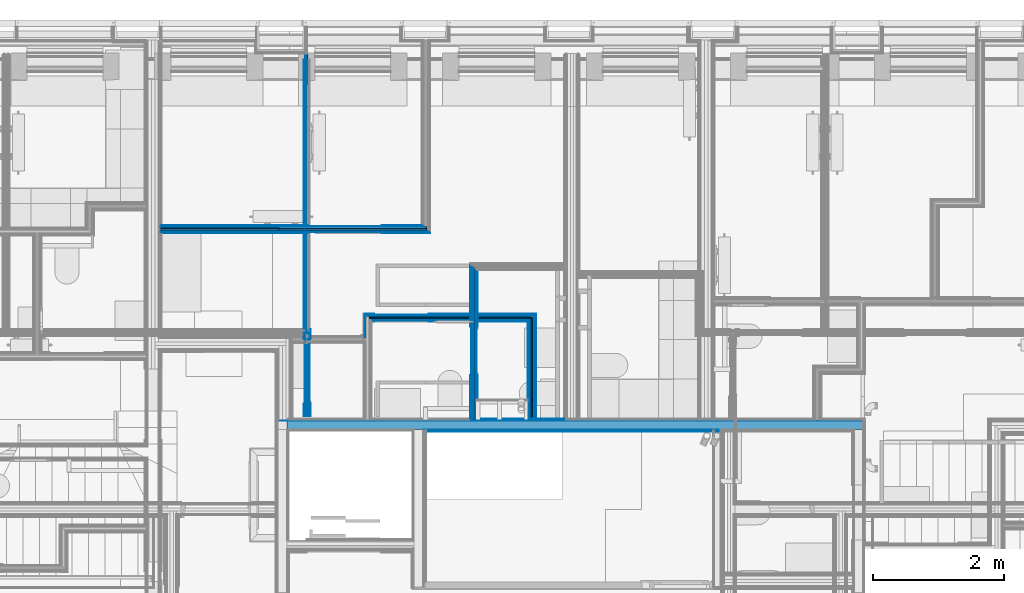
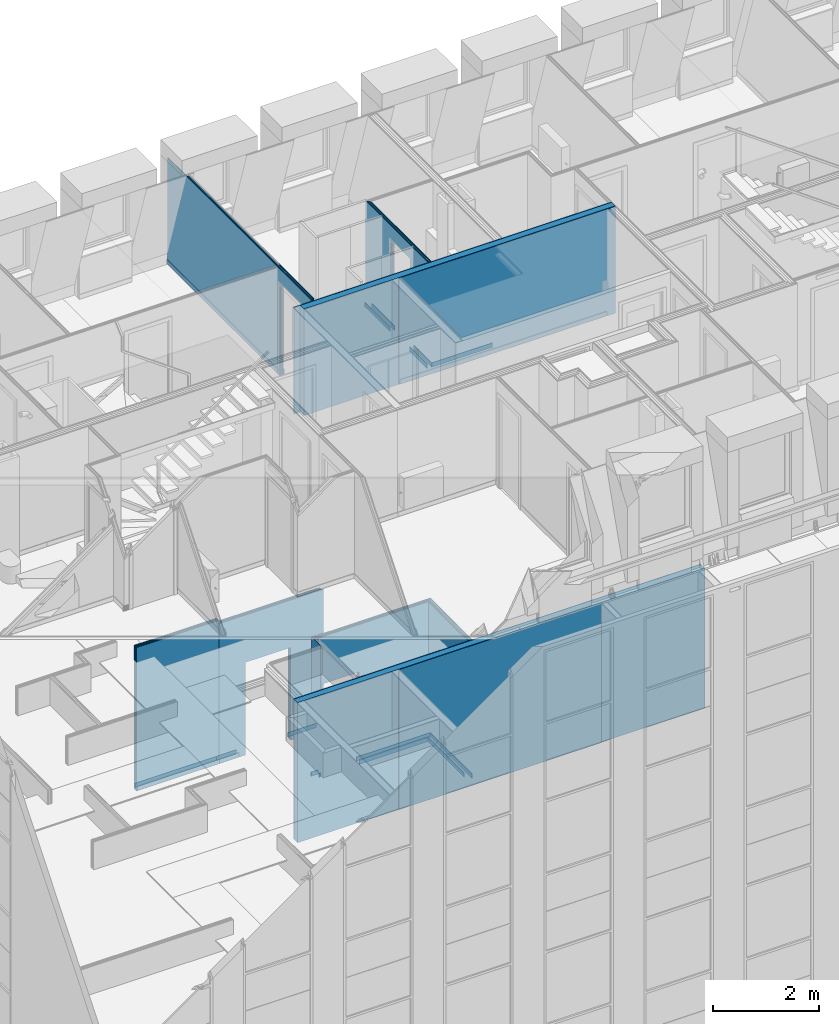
# One storey, part 31 of 169: 53 building element parts, 4 openings, 9 elements without a shape of their own.
"""IFC2X3 building model written with IfcOpenShell, lengths in metres."""

from ifc_helpers import new_model, entity, si_unit, converted_unit, derived_unit, money_unit, direction, frame, frame_2d, origin_with_axes, place, context, subcontext, project, spatial, polyline, rectangle, outline, extrude, clip, halfspace, material, type_object, element, aggregate, save


model = new_model("IFC2X3")

# Units and contexts
model_context = context("Model", 3, precision=1e-05, world=origin_with_axes(), true_north=direction((0.0, 1.0)))
body_context = subcontext(model_context, "Body", "Model", "MODEL_VIEW", scale=1.0)
ifc_project = project(units=[si_unit("LENGTHUNIT", "METRE"), si_unit("AREAUNIT", "SQUARE_METRE"), si_unit("VOLUMEUNIT", "CUBIC_METRE"), si_unit("ABSORBEDDOSEUNIT", "GRAY"), si_unit("AMOUNTOFSUBSTANCEUNIT", "MOLE"), si_unit("DOSEEQUIVALENTUNIT", "SIEVERT"), si_unit("ELECTRICCAPACITANCEUNIT", "FARAD"), si_unit("ELECTRICCHARGEUNIT", "COULOMB"), si_unit("ELECTRICCONDUCTANCEUNIT", "SIEMENS"), si_unit("ELECTRICCURRENTUNIT", "AMPERE"), si_unit("ELECTRICRESISTANCEUNIT", "OHM"), si_unit("ELECTRICVOLTAGEUNIT", "VOLT"), si_unit("ENERGYUNIT", "JOULE"), si_unit("FORCEUNIT", "NEWTON"), si_unit("FREQUENCYUNIT", "HERTZ"), si_unit("ILLUMINANCEUNIT", "LUX"), si_unit("INDUCTANCEUNIT", "HENRY"), si_unit("LUMINOUSFLUXUNIT", "LUMEN"), si_unit("LUMINOUSINTENSITYUNIT", "CANDELA"), si_unit("MAGNETICFLUXDENSITYUNIT", "TESLA"), si_unit("MAGNETICFLUXUNIT", "WEBER"), si_unit("MASSUNIT", "GRAM"), converted_unit("PLANEANGLEUNIT", "degree", entity("IfcReal", 0.0174532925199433), si_unit("PLANEANGLEUNIT", "RADIAN"), dimensions=[0, 0, 0, 0, 0, 0, 0]), si_unit("POWERUNIT", "WATT"), si_unit("PRESSUREUNIT", "PASCAL"), si_unit("RADIOACTIVITYUNIT", "BECQUEREL"), si_unit("SOLIDANGLEUNIT", "STERADIAN"), si_unit("THERMODYNAMICTEMPERATUREUNIT", "KELVIN"), si_unit("TIMEUNIT", "SECOND"), derived_unit("ACCELERATIONUNIT", [(si_unit("LENGTHUNIT", "METRE"), 1), (si_unit("TIMEUNIT", "SECOND"), -2)]), derived_unit("ANGULARVELOCITYUNIT", [(converted_unit("PLANEANGLEUNIT", "degree", entity("IfcReal", 0.0174532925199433), si_unit("PLANEANGLEUNIT", "RADIAN"), dimensions=[0, 0, 0, 0, 0, 0, 0]), 1), (si_unit("TIMEUNIT", "SECOND"), -1)]), derived_unit("CURVATUREUNIT", [(converted_unit("PLANEANGLEUNIT", "degree", entity("IfcReal", 0.0174532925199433), si_unit("PLANEANGLEUNIT", "RADIAN"), dimensions=[0, 0, 0, 0, 0, 0, 0]), 1), (si_unit("LENGTHUNIT", "METRE"), -1)]), derived_unit("DYNAMICVISCOSITYUNIT", [(si_unit("PRESSUREUNIT", "PASCAL"), 1), (si_unit("TIMEUNIT", "SECOND"), 1)]), derived_unit("HEATFLUXDENSITYUNIT", [(si_unit("POWERUNIT", "WATT"), 1), (si_unit("LENGTHUNIT", "METRE"), -2)]), derived_unit("HEATINGVALUEUNIT", [(si_unit("ENERGYUNIT", "JOULE"), 1), (si_unit("MASSUNIT", "GRAM"), -1)]), derived_unit("INTEGERCOUNTRATEUNIT", [(si_unit("TIMEUNIT", "SECOND"), -1)]), derived_unit("IONCONCENTRATIONUNIT", [(si_unit("MASSUNIT", "GRAM"), 1), (si_unit("VOLUMEUNIT", "CUBIC_METRE"), -1)]), derived_unit("ISOTHERMALMOISTURECAPACITYUNIT", [(si_unit("VOLUMEUNIT", "CUBIC_METRE"), 1), (si_unit("MASSUNIT", "GRAM"), -1)]), derived_unit("KINEMATICVISCOSITYUNIT", [(si_unit("AREAUNIT", "SQUARE_METRE"), 1), (si_unit("TIMEUNIT", "SECOND"), -1)]), derived_unit("LINEARFORCEUNIT", [(si_unit("FORCEUNIT", "NEWTON"), 1), (si_unit("LENGTHUNIT", "METRE"), -1)]), derived_unit("LINEARMOMENTUNIT", [(si_unit("FORCEUNIT", "NEWTON"), 1), (si_unit("LENGTHUNIT", "METRE"), -1)]), derived_unit("LINEARSTIFFNESSUNIT", [(si_unit("FORCEUNIT", "NEWTON"), 1), (si_unit("LENGTHUNIT", "METRE"), -1)]), derived_unit("LINEARVELOCITYUNIT", [(si_unit("LENGTHUNIT", "METRE"), 1), (si_unit("TIMEUNIT", "SECOND"), -1)]), derived_unit("LUMINOUSINTENSITYDISTRIBUTIONUNIT", [(si_unit("LUMINOUSINTENSITYUNIT", "CANDELA"), 1), (si_unit("LUMINOUSFLUXUNIT", "LUMEN"), -1)]), derived_unit("MASSDENSITYUNIT", [(si_unit("MASSUNIT", "GRAM"), 1), (si_unit("VOLUMEUNIT", "CUBIC_METRE"), -1)]), derived_unit("MASSFLOWRATEUNIT", [(si_unit("MASSUNIT", "GRAM"), 1), (si_unit("TIMEUNIT", "SECOND"), -1)]), derived_unit("MASSPERLENGTHUNIT", [(si_unit("MASSUNIT", "GRAM"), 1), (si_unit("LENGTHUNIT", "METRE"), -1)]), derived_unit("MODULUSOFELASTICITYUNIT", [(si_unit("FORCEUNIT", "NEWTON"), 1), (si_unit("AREAUNIT", "SQUARE_METRE"), -1)]), derived_unit("MODULUSOFLINEARSUBGRADEREACTIONUNIT", [(si_unit("FORCEUNIT", "NEWTON"), 1), (si_unit("LENGTHUNIT", "METRE"), -2)]), derived_unit("MODULUSOFROTATIONALSUBGRADEREACTIONUNIT", [(si_unit("FORCEUNIT", "NEWTON"), 1), (si_unit("LENGTHUNIT", "METRE"), 1)]), derived_unit("MODULUSOFSUBGRADEREACTIONUNIT", [(si_unit("FORCEUNIT", "NEWTON"), 1), (si_unit("VOLUMEUNIT", "CUBIC_METRE"), -1)]), derived_unit("MOISTUREDIFFUSIVITYUNIT", [(si_unit("VOLUMEUNIT", "CUBIC_METRE"), 1), (si_unit("TIMEUNIT", "SECOND"), -1)]), derived_unit("MOLECULARWEIGHTUNIT", [(si_unit("MASSUNIT", "GRAM"), 1), (si_unit("AMOUNTOFSUBSTANCEUNIT", "MOLE"), -1)]), derived_unit("PLANARFORCEUNIT", [(si_unit("FORCEUNIT", "NEWTON"), 1), (si_unit("LENGTHUNIT", "METRE"), -2)]), derived_unit("ROTATIONALFREQUENCYUNIT", [(si_unit("TIMEUNIT", "SECOND"), -1)]), derived_unit("ROTATIONALMASSUNIT", [(si_unit("MASSUNIT", "GRAM"), 1), (si_unit("LENGTHUNIT", "METRE"), 2)]), derived_unit("ROTATIONALSTIFFNESSUNIT", [(si_unit("FORCEUNIT", "NEWTON"), 1), (si_unit("LENGTHUNIT", "METRE"), 1), (converted_unit("PLANEANGLEUNIT", "degree", entity("IfcReal", 0.0174532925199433), si_unit("PLANEANGLEUNIT", "RADIAN"), dimensions=[0, 0, 0, 0, 0, 0, 0]), -1)]), derived_unit("SECTIONAREAINTEGRALUNIT", [(si_unit("LENGTHUNIT", "METRE"), 5)]), derived_unit("SECTIONMODULUSUNIT", [(si_unit("LENGTHUNIT", "METRE"), 3)]), derived_unit("SHEARMODULUSUNIT", [(si_unit("FORCEUNIT", "NEWTON"), 1), (si_unit("AREAUNIT", "SQUARE_METRE"), -1)]), derived_unit("SOUNDPOWERUNIT", [(si_unit("ENERGYUNIT", "JOULE"), 1), (si_unit("TIMEUNIT", "SECOND"), -1)]), derived_unit("SPECIFICHEATCAPACITYUNIT", [(si_unit("FORCEUNIT", "NEWTON"), 1), (si_unit("MASSUNIT", "GRAM"), -1), (si_unit("THERMODYNAMICTEMPERATUREUNIT", "KELVIN"), -1)]), derived_unit("TEMPERATUREGRADIENTUNIT", [(si_unit("THERMODYNAMICTEMPERATUREUNIT", "KELVIN"), 1), (si_unit("LENGTHUNIT", "METRE"), -1)]), derived_unit("THERMALADMITTANCEUNIT", [(si_unit("POWERUNIT", "WATT"), 1), (si_unit("AREAUNIT", "SQUARE_METRE"), -1), (si_unit("THERMODYNAMICTEMPERATUREUNIT", "KELVIN"), -1)]), derived_unit("THERMALCONDUCTANCEUNIT", [(si_unit("POWERUNIT", "WATT"), 1), (si_unit("LENGTHUNIT", "METRE"), -1), (si_unit("THERMODYNAMICTEMPERATUREUNIT", "KELVIN"), -1)]), derived_unit("THERMALEXPANSIONCOEFFICIENTUNIT", [(si_unit("THERMODYNAMICTEMPERATUREUNIT", "KELVIN"), -1)]), derived_unit("THERMALRESISTANCEUNIT", [(si_unit("AREAUNIT", "SQUARE_METRE"), 1), (si_unit("POWERUNIT", "WATT"), -1)]), derived_unit("THERMALTRANSMITTANCEUNIT", [(si_unit("POWERUNIT", "WATT"), 1), (si_unit("AREAUNIT", "SQUARE_METRE"), -1), (si_unit("THERMODYNAMICTEMPERATUREUNIT", "KELVIN"), -1)]), derived_unit("TORQUEUNIT", [(si_unit("FORCEUNIT", "NEWTON"), 1), (si_unit("LENGTHUNIT", "METRE"), 1)]), derived_unit("VAPORPERMEABILITYUNIT", [(si_unit("MASSUNIT", "GRAM"), 1), (si_unit("TIMEUNIT", "SECOND"), -1)]), derived_unit("VOLUMETRICFLOWRATEUNIT", [(si_unit("VOLUMEUNIT", "CUBIC_METRE"), 1), (si_unit("TIMEUNIT", "SECOND"), -1)]), derived_unit("WARPINGCONSTANTUNIT", [(si_unit("LENGTHUNIT", "METRE"), 6)]), derived_unit("WARPINGMOMENTUNIT", [(si_unit("FORCEUNIT", "NEWTON"), 1), (si_unit("LENGTHUNIT", "METRE"), 2)]), money_unit("GBP")], contexts=[model_context])

# Site, building, storey
site_placement = place(None, origin_with_axes())
site = spatial("IfcSite", under=ifc_project, at=site_placement, Name="Site", CompositionType="ELEMENT")
building_placement = place(site_placement, origin_with_axes())
building = spatial("IfcBuilding", under=site, at=building_placement, Name="Building01", CompositionType="ELEMENT")
storey_placement = place(building_placement, frame((0.0, 0.0, 5.15), z_axis=(0.0, 0.0, 1.0), x_axis=(1.0, 0.0, 0.0)))
storey = spatial("IfcBuildingStorey", under=building, at=storey_placement, Name="1F", CompositionType="ELEMENT", Elevation=5.15)

# Wall, opening, building element parts
wall_type_1 = type_object("IfcWallType", Name="SHE_A-Walls_Type05a_Partition_95mm_tall", PredefinedType="NOTDEFINED")
wall_1_placement = place(storey_placement, frame((10.453871, 10.355, 0.0), z_axis=(0.0, 0.0, 1.0), x_axis=(1.0, 0.0, 0.0)))
wall_1 = element("IfcWall", 1, at=wall_1_placement, inside=storey, type_object=wall_type_1, Name="5A", ObjectType="SHE_A-Walls_Type05a_Partition_95mm_tall")
opening_1_placement = place(wall_1_placement, frame((0.086065, -0.05, 0.0), z_axis=(0.0, 0.0, 1.0), x_axis=(1.0, 0.0, 0.0)))
element("IfcOpeningElement", 2, at=opening_1_placement, cuts=wall_1, Name="Opening", ObjectType="Opening", context=body_context, shape_type="SweptSolid", body=[
    extrude(rectangle(XDim=0.834, YDim=2.142, at=frame_2d((-0.417, 1.071), x_axis=(1.0, 0.0))), frame((0.0, 0.0, 0.0), z_axis=(0.0, 1.0, 0.0), x_axis=(-1.0, 0.0, 0.0)), (0.0, 0.0, 1.0), 0.125),
])
ifc_material_1 = material(Name="A_BSUK_Walls_Timber")
placement_1 = place(wall_1_placement, origin_with_axes())
building_element_part_1 = element("IfcBuildingElementPart", 3, at=placement_1, material=ifc_material_1, Name="1", context=body_context, shape_type="SweptSolid", body=[
    extrude(outline(polyline([(2.439714, -0.035), (0.035, -0.035), (0.05, -0.05), (2.424714, -0.05), (2.439714, -0.035)])), frame((0.0, 0.0, 0.015), z_axis=(0.0, 0.0, 1.0), x_axis=(1.0, 0.0, 0.0)), (0.0, 0.0, 1.0), 0.1),
])
ifc_material_2 = material(Name="A_BSUK_WallInternal_Finishes_Plasterboard")
building_element_part_2 = element("IfcBuildingElementPart", 4, at=placement_1, material=ifc_material_2, Name="2", context=body_context, shape_type="SweptSolid", body=[
    extrude(outline(polyline([(2.451714, -0.023), (0.023, -0.023), (0.035, -0.035), (2.439714, -0.035), (2.451714, -0.023)])), origin_with_axes(), (0.0, 0.0, 1.0), 3.24),
])
ifc_material_3 = material(Name="Air Cavity")
building_element_part_3 = element("IfcBuildingElementPart", 5, at=placement_1, material=ifc_material_3, Name="3", context=body_context, shape_type="SweptSolid", body=[
    extrude(outline(polyline([(2.474714, 0.0), (0.0, 0.0), (0.023, -0.023), (2.451714, -0.023), (2.474714, 0.0)])), origin_with_axes(), (0.0, 0.0, 1.0), 3.24),
])
ifc_material_4 = material(Name="A_BSUK_Insulation")
building_element_part_4 = element("IfcBuildingElementPart", 6, at=placement_1, material=ifc_material_4, Name="4", context=body_context, shape_type="SweptSolid", body=[
    extrude(rectangle(XDim=2.474714, YDim=0.025, at=frame_2d((1.237357, 0.0125), x_axis=(-1.0, 0.0))), origin_with_axes(), (0.0, 0.0, 1.0), 3.24),
])
building_element_part_5 = element("IfcBuildingElementPart", 7, at=placement_1, material=ifc_material_3, Name="5", context=body_context, shape_type="SweptSolid", body=[
    extrude(rectangle(XDim=2.474714, YDim=0.023, at=frame_2d((1.237357, 0.0365), x_axis=(-1.0, 0.0))), origin_with_axes(), (0.0, 0.0, 1.0), 3.24),
])
building_element_part_6 = element("IfcBuildingElementPart", 8, at=placement_1, material=ifc_material_2, Name="6", context=body_context, shape_type="SweptSolid", body=[
    extrude(outline(polyline([(2.534714, 0.06), (-0.06, 0.06), (-0.048, 0.048), (2.522714, 0.048), (2.534714, 0.06)])), origin_with_axes(), (0.0, 0.0, 1.0), 3.24),
])
building_element_part_7 = element("IfcBuildingElementPart", 9, at=placement_1, material=ifc_material_1, Name="7", context=body_context, shape_type="SweptSolid", body=[
    extrude(outline(polyline([(2.549714, 0.075), (-0.075, 0.075), (-0.06, 0.06), (2.534714, 0.06), (2.549714, 0.075)])), frame((0.0, 0.0, 0.015), z_axis=(0.0, 0.0, 1.0), x_axis=(1.0, 0.0, 0.0)), (0.0, 0.0, 1.0), 0.1),
])
aggregate(wall_1, [building_element_part_1, building_element_part_2, building_element_part_3, building_element_part_4, building_element_part_5, building_element_part_6, building_element_part_7])

# Wall, building element parts
wall_2_placement = place(storey_placement, frame((12.928585, 10.38, 0.0), z_axis=(0.0, 0.0, 1.0), x_axis=(0.0, -1.0, 0.0)))
wall_2 = element("IfcWall", 10, at=wall_2_placement, inside=storey, type_object=wall_type_1, Name="5A", ObjectType="SHE_A-Walls_Type05a_Partition_95mm_tall")
placement_2 = place(wall_2_placement, origin_with_axes())
building_element_part_8 = element("IfcBuildingElementPart", 11, at=placement_2, material=ifc_material_1, Name="1", context=body_context, shape_type="SweptSolid", body=[
    extrude(outline(polyline([(1.426872, -0.035), (0.06, -0.035), (0.075, -0.05), (1.426872, -0.05), (1.426872, -0.035)])), frame((0.0, 0.0, 0.015), z_axis=(0.0, 0.0, 1.0), x_axis=(1.0, 0.0, 0.0)), (0.0, 0.0, 1.0), 0.1),
])
building_element_part_9 = element("IfcBuildingElementPart", 12, at=placement_2, material=ifc_material_2, Name="2", context=body_context, shape_type="SweptSolid", body=[
    extrude(outline(polyline([(1.56, -0.023), (0.048, -0.023), (0.06, -0.035), (1.56, -0.035), (1.56, -0.023)])), origin_with_axes(), (0.0, 0.0, 1.0), 3.24),
])
building_element_part_10 = element("IfcBuildingElementPart", 13, at=placement_2, material=ifc_material_3, Name="3", context=body_context, shape_type="SweptSolid", body=[
    extrude(outline(polyline([(1.56, 0.0), (0.025, 0.0), (0.048, -0.023), (1.56, -0.023), (1.56, 0.0)])), origin_with_axes(), (0.0, 0.0, 1.0), 3.24),
])
building_element_part_11 = element("IfcBuildingElementPart", 14, at=placement_2, material=ifc_material_4, Name="4", context=body_context, shape_type="SweptSolid", body=[
    extrude(rectangle(XDim=1.56, YDim=0.025, at=frame_2d((0.78, 0.0125), x_axis=(-1.0, 0.0))), origin_with_axes(), (0.0, 0.0, 1.0), 3.24),
])
building_element_part_12 = element("IfcBuildingElementPart", 15, at=placement_2, material=ifc_material_3, Name="5", context=body_context, shape_type="SweptSolid", body=[
    extrude(rectangle(XDim=1.56, YDim=0.023, at=frame_2d((0.78, 0.0365), x_axis=(-1.0, 0.0))), origin_with_axes(), (0.0, 0.0, 1.0), 3.24),
])
building_element_part_13 = element("IfcBuildingElementPart", 16, at=placement_2, material=ifc_material_2, Name="6", context=body_context, shape_type="SweptSolid", body=[
    extrude(outline(polyline([(1.56, 0.06), (-0.035, 0.06), (-0.023, 0.048), (1.56, 0.048), (1.56, 0.06)])), origin_with_axes(), (0.0, 0.0, 1.0), 3.24),
])
building_element_part_14 = element("IfcBuildingElementPart", 17, at=placement_2, material=ifc_material_1, Name="7", context=body_context, shape_type="SweptSolid", body=[
    extrude(outline(polyline([(1.545, 0.075), (-0.05, 0.075), (-0.035, 0.06), (1.545, 0.06), (1.545, 0.075)])), frame((0.0, 0.0, 0.015), z_axis=(0.0, 0.0, 1.0), x_axis=(1.0, 0.0, 0.0)), (0.0, 0.0, 1.0), 0.1),
])
aggregate(wall_2, [building_element_part_8, building_element_part_9, building_element_part_10, building_element_part_11, building_element_part_12, building_element_part_13, building_element_part_14])

wall_3_placement = place(storey_placement, frame((9.09, 11.703124, 0.0), z_axis=(0.0, 0.0, 1.0), x_axis=(-1.0, 0.0, 0.0)))
wall_3 = element("IfcWall", 18, at=wall_3_placement, inside=storey, type_object=wall_type_1, Name="5A", ObjectType="SHE_A-Walls_Type05a_Partition_95mm_tall")
placement_3 = place(wall_3_placement, origin_with_axes())
building_element_part_15 = element("IfcBuildingElementPart", 19, at=placement_3, material=ifc_material_1, Name="1", context=body_context, shape_type="SweptSolid", body=[
    extrude(rectangle(XDim=1.785331, YDim=0.015, at=frame_2d((0.892666, -0.0675), x_axis=(-1.0, 0.0))), frame((0.0, 0.0, 0.015), z_axis=(0.0, 0.0, 1.0), x_axis=(1.0, 0.0, 0.0)), (0.0, 0.0, 1.0), 0.1),
])
building_element_part_16 = element("IfcBuildingElementPart", 20, at=placement_3, material=ifc_material_2, Name="2", context=body_context, shape_type="SweptSolid", body=[
    extrude(rectangle(XDim=1.800331, YDim=0.012, at=frame_2d((0.900166, -0.054), x_axis=(1.0, 0.0))), origin_with_axes(), (0.0, 0.0, 1.0), 3.32),
])
building_element_part_17 = element("IfcBuildingElementPart", 21, at=placement_3, material=ifc_material_3, Name="3", context=body_context, shape_type="SweptSolid", body=[
    extrude(rectangle(XDim=1.800331, YDim=0.023, at=frame_2d((0.900166, -0.0365), x_axis=(1.0, 0.0))), origin_with_axes(), (0.0, 0.0, 1.0), 3.32),
])
building_element_part_18 = element("IfcBuildingElementPart", 22, at=placement_3, material=ifc_material_4, Name="4", context=body_context, shape_type="SweptSolid", body=[
    extrude(rectangle(XDim=1.800331, YDim=0.025, at=frame_2d((0.900166, -0.0125), x_axis=(1.0, 0.0))), origin_with_axes(), (0.0, 0.0, 1.0), 3.32),
])
building_element_part_19 = element("IfcBuildingElementPart", 23, at=placement_3, material=ifc_material_3, Name="5", context=body_context, shape_type="SweptSolid", body=[
    extrude(rectangle(XDim=1.800331, YDim=0.023, at=frame_2d((0.900166, 0.0115), x_axis=(1.0, 0.0))), origin_with_axes(), (0.0, 0.0, 1.0), 3.32),
])
building_element_part_20 = element("IfcBuildingElementPart", 24, at=placement_3, material=ifc_material_2, Name="6", context=body_context, shape_type="SweptSolid", body=[
    extrude(rectangle(XDim=1.800331, YDim=0.012, at=frame_2d((0.900166, 0.029), x_axis=(1.0, 0.0))), origin_with_axes(), (0.0, 0.0, 1.0), 3.32),
])
building_element_part_21 = element("IfcBuildingElementPart", 25, at=placement_3, material=ifc_material_1, Name="7", context=body_context, shape_type="SweptSolid", body=[
    extrude(rectangle(XDim=1.785331, YDim=0.015, at=frame_2d((0.892666, 0.0425), x_axis=(-1.0, 0.0))), frame((0.0, 0.0, 0.015), z_axis=(0.0, 0.0, 1.0), x_axis=(1.0, 0.0, 0.0)), (0.0, 0.0, 1.0), 0.1),
])
aggregate(wall_3, [building_element_part_15, building_element_part_16, building_element_part_17, building_element_part_18, building_element_part_19, building_element_part_20, building_element_part_21])

# Wall, opening, building element parts
wall_4_placement = place(storey_placement, frame((9.09, 11.703124, 0.0), z_axis=(0.0, 0.0, 1.0), x_axis=(1.0, 0.0, 0.0)))
wall_4 = element("IfcWall", 26, at=wall_4_placement, inside=storey, type_object=wall_type_1, Name="5A", ObjectType="SHE_A-Walls_Type05a_Partition_95mm_tall")
opening_2_placement = place(wall_4_placement, frame((0.579, -0.05, -0.015), z_axis=(0.0, 0.0, 1.0), x_axis=(1.0, 0.0, 0.0)))
element("IfcOpeningElement", 27, at=opening_2_placement, cuts=wall_4, Name="Opening", ObjectType="Opening", context=body_context, shape_type="SweptSolid", body=[
    extrude(outline(polyline([(-0.042, 0.0), (-0.042, 0.015), (0.0, 0.015), (0.0, 2.157), (-0.984, 2.157), (-0.984, 0.015), (-0.840883, 0.015), (-0.840883, 0.0), (-0.042, 0.0)])), frame((0.0, 0.0, 0.0), z_axis=(0.0, 1.0, 0.0), x_axis=(-1.0, 0.0, 0.0)), (0.0, 0.0, 1.0), 0.125),
    extrude(outline(polyline([(-0.942, 0.015), (-0.942, 0.0), (-0.042, 0.0), (-0.042, 0.015), (0.0, 0.015), (0.0, 2.157), (-0.984, 2.157), (-0.984, 0.015), (-0.942, 0.015)])), frame((0.0, 0.015, 0.0), z_axis=(0.0, 1.0, 0.0), x_axis=(-1.0, 0.0, 0.0)), (0.0, 0.0, 1.0), 0.012),
    extrude(outline(polyline([(0.0, 2.142), (0.0, 2.157), (-0.984, 2.157), (-0.984, 0.015), (-0.840883, 0.015), (-0.840883, 0.0), (0.143117, 0.0), (0.143117, 2.142), (0.0, 2.142)])), frame((0.0, 0.0, 0.0), z_axis=(0.0, 1.0, 0.0), x_axis=(-1.0, 0.0, 0.0)), (0.0, 0.0, 1.0), 0.015),
    extrude(outline(polyline([(-0.942, 0.015), (-0.942, 0.0), (-0.042, 0.0), (-0.042, 0.015), (0.0, 0.015), (0.0, 2.157), (-0.984, 2.157), (-0.984, 0.015), (-0.942, 0.015)])), frame((0.0, 0.027, 0.0), z_axis=(0.0, 1.0, 0.0), x_axis=(-1.0, 0.0, 0.0)), (0.0, 0.0, 1.0), 0.023),
    extrude(outline(polyline([(-0.942, 0.015), (-0.942, 0.0), (-0.042, 0.0), (-0.042, 0.015), (0.0, 0.015), (0.0, 2.157), (-0.984, 2.157), (-0.984, 0.015), (-0.942, 0.015)])), frame((0.0, 0.05, 0.0), z_axis=(0.0, 1.0, 0.0), x_axis=(-1.0, 0.0, 0.0)), (0.0, 0.0, 1.0), 0.025),
    extrude(outline(polyline([(-0.942, 0.015), (-0.942, 0.0), (-0.042, 0.0), (-0.042, 0.015), (0.0, 0.015), (0.0, 2.157), (-0.984, 2.157), (-0.984, 0.015), (-0.942, 0.015)])), frame((0.0, 0.075, 0.0), z_axis=(0.0, 1.0, 0.0), x_axis=(-1.0, 0.0, 0.0)), (0.0, 0.0, 1.0), 0.023),
    extrude(outline(polyline([(-0.942, 0.015), (-0.942, 0.0), (-0.042, 0.0), (-0.042, 0.015), (0.0, 0.015), (0.0, 2.157), (-0.984, 2.157), (-0.984, 0.015), (-0.942, 0.015)])), frame((0.0, 0.098, 0.0), z_axis=(0.0, 1.0, 0.0), x_axis=(-1.0, 0.0, 0.0)), (0.0, 0.0, 1.0), 0.012),
    extrude(outline(polyline([(-0.840883, 0.015), (-0.840883, 0.0), (0.143117, 0.0), (0.143117, 2.142), (0.0, 2.142), (0.0, 2.157), (-0.984, 2.157), (-0.984, 0.015), (-0.840883, 0.015)])), frame((0.0, 0.11, 0.0), z_axis=(0.0, 1.0, 0.0), x_axis=(-1.0, 0.0, 0.0)), (0.0, 0.0, 1.0), 0.015),
])
placement_4 = place(wall_4_placement, origin_with_axes())
building_element_part_22 = element("IfcBuildingElementPart", 28, at=placement_4, material=ifc_material_1, Name="1", context=body_context, shape_type="SweptSolid", body=[
    extrude(outline(polyline([(2.285, -0.035), (0.0, -0.035), (0.0, -0.05), (2.3, -0.05), (2.285, -0.035)])), frame((0.0, 0.0, 0.015), z_axis=(0.0, 0.0, 1.0), x_axis=(1.0, 0.0, 0.0)), (0.0, 0.0, 1.0), 0.1),
])
building_element_part_23 = element("IfcBuildingElementPart", 29, at=placement_4, material=ifc_material_2, Name="2", context=body_context, shape_type="SweptSolid", body=[
    extrude(outline(polyline([(2.273, -0.023), (0.0, -0.023), (0.0, -0.035), (2.285, -0.035), (2.273, -0.023)])), origin_with_axes(), (0.0, 0.0, 1.0), 3.24),
])
building_element_part_24 = element("IfcBuildingElementPart", 30, at=placement_4, material=ifc_material_3, Name="3", context=body_context, shape_type="SweptSolid", body=[
    extrude(outline(polyline([(2.25, 0.0), (0.0, 0.0), (0.0, -0.023), (2.273, -0.023), (2.25, 0.0)])), origin_with_axes(), (0.0, 0.0, 1.0), 3.24),
])
building_element_part_25 = element("IfcBuildingElementPart", 31, at=placement_4, material=ifc_material_4, Name="4", context=body_context, shape_type="SweptSolid", body=[
    extrude(rectangle(XDim=2.25, YDim=0.025, at=frame_2d((1.125, 0.0125), x_axis=(-1.0, 0.0))), origin_with_axes(), (0.0, 0.0, 1.0), 3.24),
])
building_element_part_26 = element("IfcBuildingElementPart", 32, at=placement_4, material=ifc_material_3, Name="5", context=body_context, shape_type="SweptSolid", body=[
    extrude(rectangle(XDim=2.25, YDim=0.023, at=frame_2d((1.125, 0.0365), x_axis=(-1.0, 0.0))), origin_with_axes(), (0.0, 0.0, 1.0), 3.24),
])
building_element_part_27 = element("IfcBuildingElementPart", 33, at=placement_4, material=ifc_material_2, Name="6", context=body_context, shape_type="SweptSolid", body=[
    extrude(outline(polyline([(2.19, 0.06), (0.0, 0.06), (0.0, 0.048), (2.202, 0.048), (2.19, 0.06)])), origin_with_axes(), (0.0, 0.0, 1.0), 3.24),
])
building_element_part_28 = element("IfcBuildingElementPart", 34, at=placement_4, material=ifc_material_1, Name="7", context=body_context, shape_type="SweptSolid", body=[
    extrude(outline(polyline([(2.175, 0.075), (0.0, 0.075), (0.0, 0.06), (2.19, 0.06), (2.175, 0.075)])), frame((0.0, 0.0, 0.015), z_axis=(0.0, 0.0, 1.0), x_axis=(1.0, 0.0, 0.0)), (0.0, 0.0, 1.0), 0.1),
])
aggregate(wall_4, [building_element_part_22, building_element_part_23, building_element_part_24, building_element_part_25, building_element_part_26, building_element_part_27, building_element_part_28])

# Wall, building element parts
wall_type_2 = type_object("IfcWallType", Name="SHE_A-Walls_Type03a_BlockworkWall_170mm", PredefinedType="NOTDEFINED")
wall_5_placement = place(storey_placement, frame((17.985, 8.805, 0.0), z_axis=(0.0, 0.0, 1.0), x_axis=(-1.0, 0.0, 0.0)))
wall_5 = element("IfcWall", 35, at=wall_5_placement, inside=storey, type_object=wall_type_2, Name="4B", ObjectType="SHE_A-Walls_Type03a_BlockworkWall_170mm")
placement_5 = place(wall_5_placement, origin_with_axes())
building_element_part_29 = element("IfcBuildingElementPart", 36, at=placement_5, material=ifc_material_2, Name="7", context=body_context, shape_type="SweptSolid", body=[
    extrude(rectangle(XDim=8.91, YDim=0.015, at=frame_2d((4.455, -0.0075), x_axis=(-1.0, 0.0))), origin_with_axes(), (0.0, 0.0, 1.0), 3.24),
])
ifc_material_5 = material(Name="A_BSUK_WallsInternal_Block")
building_element_part_30 = element("IfcBuildingElementPart", 37, at=placement_5, material=ifc_material_5, Name="8", context=body_context, shape_type="SweptSolid", body=[
    extrude(rectangle(XDim=8.91, YDim=0.14, at=frame_2d((4.455, 0.07), x_axis=(-1.0, 0.0))), origin_with_axes(), (0.0, 0.0, 1.0), 3.24),
])
ifc_material_6 = material(Name="A_BSUK_WallInternal_Finishes_Plaster")
building_element_part_31 = element("IfcBuildingElementPart", 38, at=placement_5, material=ifc_material_6, Name="11", context=body_context, shape_type="SweptSolid", body=[
    extrude(rectangle(XDim=4.43, YDim=0.015, at=frame_2d((4.485, 0.1475), x_axis=(-1.0, 0.0))), origin_with_axes(), (0.0, 0.0, 1.0), 3.24),
])
aggregate(wall_5, [building_element_part_29, building_element_part_30, building_element_part_31])

# Wall, building element part
wall_6_placement = place(storey_placement, frame((10.453871, 8.82, 0.0), z_axis=(0.0, 0.0, 1.0), x_axis=(0.0, 1.0, 0.0)))
wall_6 = element("IfcWall", 39, at=wall_6_placement, inside=storey, type_object=wall_type_1, Name="5A", ObjectType="SHE_A-Walls_Type05a_Partition_95mm_tall")
building_element_part_32_placement = place(wall_6_placement, origin_with_axes())
building_element_part_32 = element("IfcBuildingElementPart", 40, at=building_element_part_32_placement, material=ifc_material_2, Name="7", context=body_context, shape_type="SweptSolid", body=[
    extrude(outline(polyline([(1.595, 0.06), (1.255704, 0.06), (1.255704, 0.048), (1.583, 0.048), (1.595, 0.06)])), origin_with_axes(), (0.0, 0.0, 1.0), 3.24),
])
aggregate(wall_6, [building_element_part_32])

# Wall, opening, building element parts
wall_type_3 = type_object("IfcWallType", Name="SHE_A-Walls_Type05b_Partition_80mm", PredefinedType="NOTDEFINED")
wall_7_placement = place(storey_placement, frame((9.533024, 8.871434, 9.83), z_axis=(0.0, 0.0, 1.0), x_axis=(0.0, 1.0, 0.0)))
wall_7 = element("IfcWall", 41, at=wall_7_placement, inside=storey, type_object=wall_type_3, Name="5B", ObjectType="SHE_A-Walls_Type05b_Partition_80mm")
opening_3_placement = place(wall_7_placement, frame((0.186506, 0.068, 0.0), z_axis=(0.0, 0.0, 1.0), x_axis=(1.0, 0.0, 0.0)))
element("IfcOpeningElement", 42, at=opening_3_placement, cuts=wall_7, Name="Opening", ObjectType="Opening", context=body_context, shape_type="SweptSolid", body=[
    extrude(rectangle(XDim=0.984, YDim=2.142, at=frame_2d((0.492, 1.071), x_axis=(1.0, 0.0))), frame((0.0, 0.0, 0.0), z_axis=(0.0, -1.0, 0.0), x_axis=(1.0, 0.0, 0.0)), (0.0, 0.0, 1.0), 0.11),
])
placement_6 = place(wall_7_placement, origin_with_axes())
building_element_part_33 = element("IfcBuildingElementPart", 43, at=placement_6, material=ifc_material_1, Name="1", context=body_context, shape_type="SweptSolid", body=[
    extrude(outline(polyline([(1.308506, -0.027), (0.0, -0.027), (0.0, -0.042), (1.323506, -0.042), (1.308506, -0.027)])), frame((0.0, 0.0, 0.015), z_axis=(0.0, 0.0, 1.0), x_axis=(1.0, 0.0, 0.0)), (0.0, 0.0, 1.0), 0.1),
])
building_element_part_34 = element("IfcBuildingElementPart", 44, at=placement_6, material=ifc_material_2, Name="2", context=body_context, shape_type="SweptSolid", body=[
    extrude(outline(polyline([(1.293506, -0.012), (0.0, -0.012), (0.0, -0.027), (1.308506, -0.027), (1.293506, -0.012)])), origin_with_axes(), (0.0, 0.0, 1.0), 2.468),
])
building_element_part_35 = element("IfcBuildingElementPart", 45, at=placement_6, material=ifc_material_3, Name="3", context=body_context, shape_type="SweptSolid", body=[
    extrude(outline(polyline([(1.281506, 0.0), (0.0, 0.0), (0.0, -0.012), (1.293506, -0.012), (1.281506, 0.0)])), origin_with_axes(), (0.0, 0.0, 1.0), 2.468),
])
building_element_part_36 = element("IfcBuildingElementPart", 46, at=placement_6, material=ifc_material_4, Name="4", context=body_context, shape_type="Clipping", body=[
    clip(extrude(rectangle(XDim=5.50471, YDim=0.025, at=frame_2d((2.752355, 0.0125), x_axis=(-1.0, 0.0))), origin_with_axes(), (0.0, 0.0, 1.0), 2.468), halfspace(frame((4.979057, 0.0, 1.617794), z_axis=(-0.95105652, 0.0, -0.30901699), x_axis=(0.0, -1.0, 0.0)), True)),
])
building_element_part_37 = element("IfcBuildingElementPart", 47, at=placement_6, material=ifc_material_3, Name="5", context=body_context, shape_type="Clipping", body=[
    clip(extrude(rectangle(XDim=5.50471, YDim=0.013, at=frame_2d((2.752355, 0.0315), x_axis=(-1.0, 0.0))), origin_with_axes(), (0.0, 0.0, 1.0), 2.468), halfspace(frame((4.979057, 0.0, 1.617794), z_axis=(-0.95105652, 0.0, -0.30901699), x_axis=(0.0, -1.0, 0.0)), True)),
])
building_element_part_38 = element("IfcBuildingElementPart", 48, at=placement_6, material=ifc_material_2, Name="6", context=body_context, shape_type="SweptSolid", body=[
    extrude(rectangle(XDim=1.243506, YDim=0.015, at=frame_2d((0.621753, 0.0455), x_axis=(-1.0, 0.0))), origin_with_axes(), (0.0, 0.0, 1.0), 2.468),
])
building_element_part_39 = element("IfcBuildingElementPart", 49, at=placement_6, material=ifc_material_2, Name="7", context=body_context, shape_type="SweptSolid", body=[
    extrude(rectangle(XDim=5.424766, YDim=0.015, at=frame_2d((2.712383, 0.0455), x_axis=(-1.0, 0.0))), origin_with_axes(), (0.0, 0.0, 1.0), 2.468),
])
building_element_part_40 = element("IfcBuildingElementPart", 50, at=placement_6, material=ifc_material_1, Name="8", context=body_context, shape_type="SweptSolid", body=[
    extrude(outline(polyline([(1.213506, 0.068), (0.0, 0.068), (0.0, 0.053), (1.228506, 0.053), (1.213506, 0.068)])), frame((0.0, 0.0, 0.015), z_axis=(0.0, 0.0, 1.0), x_axis=(1.0, 0.0, 0.0)), (0.0, 0.0, 1.0), 0.1),
])
building_element_part_41 = element("IfcBuildingElementPart", 51, at=placement_6, material=ifc_material_1, Name="9", context=body_context, shape_type="SweptSolid", body=[
    extrude(rectangle(XDim=5.424766, YDim=0.015, at=frame_2d((2.712383, 0.0605), x_axis=(-1.0, 0.0))), frame((0.0, 0.0, 0.015), z_axis=(0.0, 0.0, 1.0), x_axis=(1.0, 0.0, 0.0)), (0.0, 0.0, 1.0), 0.1),
])
aggregate(wall_7, [building_element_part_33, building_element_part_34, building_element_part_35, building_element_part_36, building_element_part_37, building_element_part_38, building_element_part_39, building_element_part_40, building_element_part_41])

wall_8_placement = place(storey_placement, frame((12.044381, 11.156849, 9.83), z_axis=(0.0, 0.0, 1.0), x_axis=(0.0, -1.0, 0.0)))
wall_8 = element("IfcWall", 52, at=wall_8_placement, inside=storey, type_object=wall_type_3, Name="5B", ObjectType="SHE_A-Walls_Type05b_Partition_80mm")
opening_4_placement = place(wall_8_placement, frame((0.926, -0.042, 0.0), z_axis=(0.0, 0.0, 1.0), x_axis=(1.0, 0.0, 0.0)))
element("IfcOpeningElement", 53, at=opening_4_placement, cuts=wall_8, Name="Opening", ObjectType="Opening", context=body_context, shape_type="SweptSolid", body=[
    extrude(rectangle(XDim=0.734, YDim=2.142, at=frame_2d((-0.367, 1.071), x_axis=(1.0, 0.0))), frame((0.0, 0.0, 0.0), z_axis=(0.0, 1.0, 0.0), x_axis=(-1.0, 0.0, 0.0)), (0.0, 0.0, 1.0), 0.11),
])
placement_7 = place(wall_8_placement, origin_with_axes())
building_element_part_42 = element("IfcBuildingElementPart", 54, at=placement_7, material=ifc_material_1, Name="1", context=body_context, shape_type="SweptSolid", body=[
    extrude(outline(polyline([(2.321849, -0.027), (-0.027, -0.027), (-0.042, -0.042), (2.321849, -0.042), (2.321849, -0.027)])), frame((0.0, 0.0, 0.015), z_axis=(0.0, 0.0, 1.0), x_axis=(1.0, 0.0, 0.0)), (0.0, 0.0, 1.0), 0.1),
])
building_element_part_43 = element("IfcBuildingElementPart", 55, at=placement_7, material=ifc_material_2, Name="2", context=body_context, shape_type="SweptSolid", body=[
    extrude(outline(polyline([(2.336849, -0.012), (-0.012, -0.012), (-0.027, -0.027), (2.336849, -0.027), (2.336849, -0.012)])), origin_with_axes(), (0.0, 0.0, 1.0), 2.468),
])
building_element_part_44 = element("IfcBuildingElementPart", 56, at=placement_7, material=ifc_material_3, Name="3", context=body_context, shape_type="SweptSolid", body=[
    extrude(outline(polyline([(2.336849, 0.0), (0.0, 0.0), (-0.012, -0.012), (2.336849, -0.012), (2.336849, 0.0)])), origin_with_axes(), (0.0, 0.0, 1.0), 2.468),
])
building_element_part_45 = element("IfcBuildingElementPart", 57, at=placement_7, material=ifc_material_4, Name="4", context=body_context, shape_type="SweptSolid", body=[
    extrude(outline(polyline([(2.336849, 0.025), (0.025, 0.025), (0.0, 0.0), (2.336849, 0.0), (2.336849, 0.025)])), origin_with_axes(), (0.0, 0.0, 1.0), 2.468),
])
building_element_part_46 = element("IfcBuildingElementPart", 58, at=placement_7, material=ifc_material_3, Name="5", context=body_context, shape_type="SweptSolid", body=[
    extrude(outline(polyline([(2.336849, 0.038), (0.038, 0.038), (0.025, 0.025), (2.336849, 0.025), (2.336849, 0.038)])), origin_with_axes(), (0.0, 0.0, 1.0), 2.468),
])
building_element_part_47 = element("IfcBuildingElementPart", 59, at=placement_7, material=ifc_material_2, Name="6", context=body_context, shape_type="SweptSolid", body=[
    extrude(outline(polyline([(2.336849, 0.053), (0.053, 0.053), (0.038, 0.038), (2.336849, 0.038), (2.336849, 0.053)])), origin_with_axes(), (0.0, 0.0, 1.0), 2.468),
])
building_element_part_48 = element("IfcBuildingElementPart", 60, at=placement_7, material=ifc_material_1, Name="7", context=body_context, shape_type="SweptSolid", body=[
    extrude(outline(polyline([(2.336849, 0.068), (0.068, 0.068), (0.053, 0.053), (2.336849, 0.053), (2.336849, 0.068)])), frame((0.0, 0.0, 0.015), z_axis=(0.0, 0.0, 1.0), x_axis=(1.0, 0.0, 0.0)), (0.0, 0.0, 1.0), 0.1),
])
aggregate(wall_8, [building_element_part_42, building_element_part_43, building_element_part_44, building_element_part_45, building_element_part_46, building_element_part_47, building_element_part_48])

# Wall, building element parts
wall_9_placement = place(storey_placement, frame((9.215, 8.665, 9.83), z_axis=(0.0, 0.0, 1.0), x_axis=(1.0, 0.0, 0.0)))
wall_9 = element("IfcWall", 61, at=wall_9_placement, inside=storey, type_object=wall_type_2, Name="4B", ObjectType="SHE_A-Walls_Type03a_BlockworkWall_170mm")
placement_8 = place(wall_9_placement, origin_with_axes())
building_element_part_49 = element("IfcBuildingElementPart", 62, at=placement_8, material=ifc_material_1, Name="1", context=body_context, shape_type="SweptSolid", body=[
    extrude(rectangle(XDim=4.52344, YDim=0.015, at=frame_2d((4.34672, -0.0225), x_axis=(-1.0, 0.0))), frame((0.0, 0.0, 0.015), z_axis=(0.0, 0.0, 1.0), x_axis=(1.0, 0.0, 0.0)), (0.0, 0.0, 1.0), 0.1),
])
building_element_part_50 = element("IfcBuildingElementPart", 63, at=placement_8, material=ifc_material_2, Name="3", context=body_context, shape_type="SweptSolid", body=[
    extrude(rectangle(XDim=4.73844, YDim=0.015, at=frame_2d((4.43922, -0.0075), x_axis=(1.0, 0.0))), origin_with_axes(), (0.0, 0.0, 1.0), 2.468),
])
building_element_part_51 = element("IfcBuildingElementPart", 64, at=placement_8, material=ifc_material_5, Name="4", context=body_context, shape_type="SweptSolid", body=[
    extrude(rectangle(XDim=0.14, YDim=6.80844, at=frame_2d((3.40422, 0.07), x_axis=(0.0, -1.0))), origin_with_axes(), (0.0, 0.0, 1.0), 2.468),
])
building_element_part_52 = element("IfcBuildingElementPart", 65, at=placement_8, material=ifc_material_6, Name="5", context=body_context, shape_type="SweptSolid", body=[
    extrude(rectangle(XDim=0.015, YDim=6.94844, at=frame_2d((3.33422, 0.1475), x_axis=(0.0, -1.0))), origin_with_axes(), (0.0, 0.0, 1.0), 2.468),
])
building_element_part_53 = element("IfcBuildingElementPart", 66, at=placement_8, material=ifc_material_1, Name="8", context=body_context, shape_type="SweptSolid", body=[
    extrude(rectangle(XDim=1.322619, YDim=0.015, at=frame_2d((3.55869, 0.1625), x_axis=(-1.0, 0.0))), frame((0.0, 0.0, 0.015), z_axis=(0.0, 0.0, 1.0), x_axis=(1.0, 0.0, 0.0)), (0.0, 0.0, 1.0), 0.1),
])
aggregate(wall_9, [building_element_part_49, building_element_part_50, building_element_part_51, building_element_part_52, building_element_part_53])

save(model, "model.ifc")
